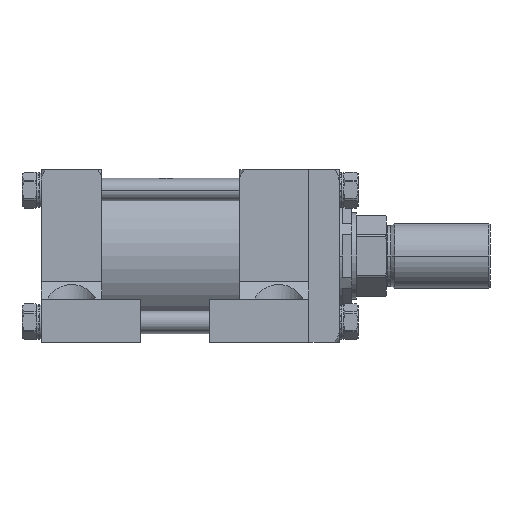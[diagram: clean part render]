
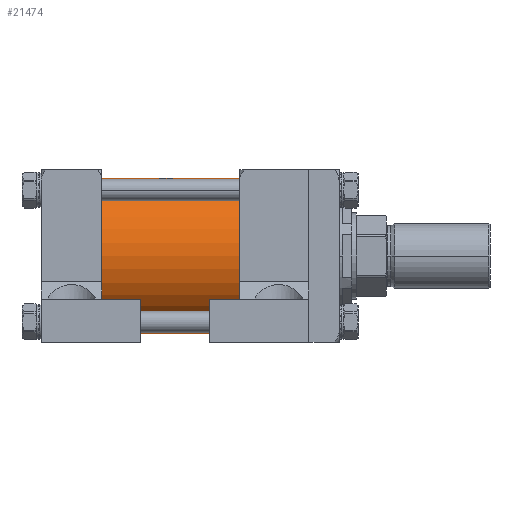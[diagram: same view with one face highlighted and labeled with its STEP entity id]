
A CAD part, front view. The second image highlights one B-rep face of the part: STEP entity #21474.
In plain terms, the highlighted cylindrical face has radius 57.15 mm (diameter 114.3 mm), a partial arc.
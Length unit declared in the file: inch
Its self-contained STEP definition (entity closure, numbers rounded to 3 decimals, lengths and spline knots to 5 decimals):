
#60 = CARTESIAN_POINT ( 'NONE',  ( -8.5, 0., 2.25 ) ) ;
#5471 = CARTESIAN_POINT ( 'NONE',  ( -4., 0., 2.25 ) ) ;
#5949 = CYLINDRICAL_SURFACE ( 'NONE', #55879, 2.25 ) ;
#6403 = CARTESIAN_POINT ( 'NONE',  ( -8.5, 0., -2.25 ) ) ;
#7723 = ORIENTED_EDGE ( 'NONE', *, *, #43146, .F. ) ;
#9040 = LINE ( 'NONE', #60, #20353 ) ;
#9735 = DIRECTION ( 'NONE',  ( 0., 1., 0. ) ) ;
#11608 = AXIS2_PLACEMENT_3D ( 'NONE', #23050, #43612, #43299 ) ;
#12163 = EDGE_CURVE ( 'NONE', #32340, #13365, #49049, .T. ) ;
#12414 = DIRECTION ( 'NONE',  ( 1., 0., 0. ) ) ;
#13365 = VERTEX_POINT ( 'NONE', #16027 ) ;
#16027 = CARTESIAN_POINT ( 'NONE',  ( -4., 0., -2.25 ) ) ;
#16083 = CARTESIAN_POINT ( 'NONE',  ( -8.5, 0., 2.25 ) ) ;
#16756 = EDGE_LOOP ( 'NONE', ( #16802, #43304, #50970, #7723 ) ) ;
#16802 = ORIENTED_EDGE ( 'NONE', *, *, #50212, .F. ) ;
#17651 = VERTEX_POINT ( 'NONE', #16083 ) ;
#18919 = VERTEX_POINT ( 'NONE', #5471 ) ;
#20353 = VECTOR ( 'NONE', #36776, 39.37008 ) ;
#20681 = DIRECTION ( 'NONE',  ( 1., 0., 0. ) ) ;
#21474 = ADVANCED_FACE ( 'NONE', ( #26156 ), #5949, .T. ) ;
#23050 = CARTESIAN_POINT ( 'NONE',  ( -8.5, 0., 0. ) ) ;
#24085 = CARTESIAN_POINT ( 'NONE',  ( -4., 0., 0. ) ) ;
#26156 = FACE_OUTER_BOUND ( 'NONE', #16756, .T. ) ;
#26763 = CARTESIAN_POINT ( 'NONE',  ( -8.5, 0., 0. ) ) ;
#30578 = CIRCLE ( 'NONE', #11608, 2.25 ) ;
#32331 = VECTOR ( 'NONE', #20681, 39.37008 ) ;
#32340 = VERTEX_POINT ( 'NONE', #41275 ) ;
#33946 = CIRCLE ( 'NONE', #51828, 2.25 ) ;
#36776 = DIRECTION ( 'NONE',  ( 1., 0., 0. ) ) ;
#41275 = CARTESIAN_POINT ( 'NONE',  ( -8.5, 0., -2.25 ) ) ;
#43146 = EDGE_CURVE ( 'NONE', #18919, #13365, #33946, .T. ) ;
#43299 = DIRECTION ( 'NONE',  ( 0., 1., 0. ) ) ;
#43304 = ORIENTED_EDGE ( 'NONE', *, *, #58837, .T. ) ;
#43612 = DIRECTION ( 'NONE',  ( 1., 0., 0. ) ) ;
#46081 = DIRECTION ( 'NONE',  ( 0., 0., -1. ) ) ;
#49049 = LINE ( 'NONE', #6403, #32331 ) ;
#50212 = EDGE_CURVE ( 'NONE', #17651, #18919, #9040, .T. ) ;
#50970 = ORIENTED_EDGE ( 'NONE', *, *, #12163, .T. ) ;
#51828 = AXIS2_PLACEMENT_3D ( 'NONE', #24085, #53328, #9735 ) ;
#53328 = DIRECTION ( 'NONE',  ( 1., 0., 0. ) ) ;
#55879 = AXIS2_PLACEMENT_3D ( 'NONE', #26763, #12414, #46081 ) ;
#58837 = EDGE_CURVE ( 'NONE', #17651, #32340, #30578, .T. ) ;
